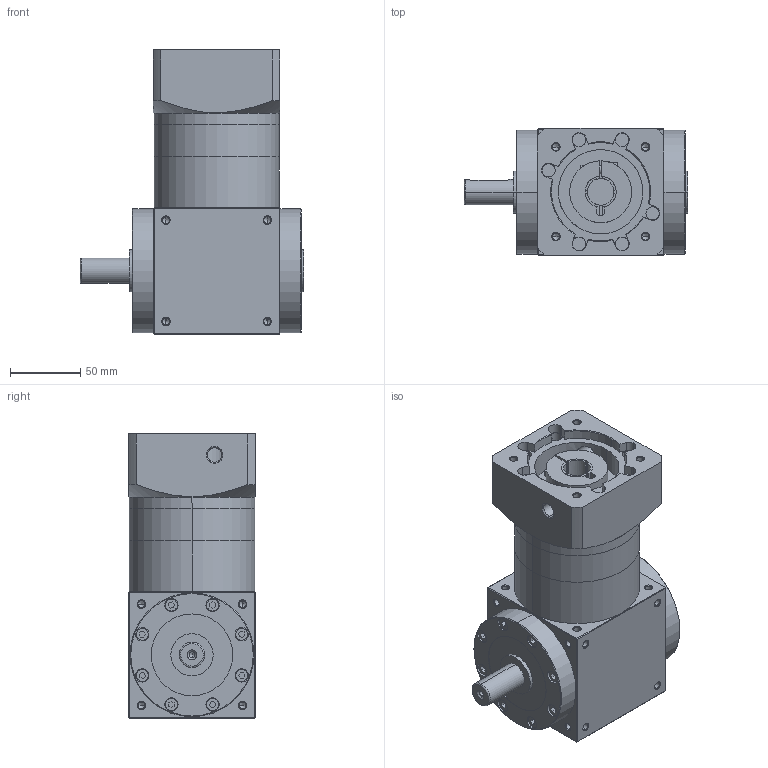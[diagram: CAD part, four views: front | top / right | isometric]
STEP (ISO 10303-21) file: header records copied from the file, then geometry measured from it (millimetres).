
FILE_DESCRIPTION (( 'STEP AP203' ), '1' );
FILE_NAME ('AT090-FL1-L2-19-70-90M6.STEP', '2025-12-11T02:52:57', ( 'Windows User' ), ( 'P R C' ), 'SwSTEP 2.0', 'SolidWorks 2016', '' );
FILE_SCHEMA (( 'CONFIG_CONTROL_DESIGN' ));
Length unit declared in the file: millimetre
Products named in the file (6): AT90单级齿圈; 输入胀套-22; AT90输入法兰-B-70-M6-90; AT090-FL1-L2-19-70-90M6; AT90-转角箱体-左单轴-输出; AT90蛌倰怀堤楊擘
Assembly tree (5 placements, depth 2):
  AT090-FL1-L2-19-70-90M6
    AT90-转角箱体-左单轴-输出
    AT90蛌倰怀堤楊擘
    AT90单级齿圈
    输入胀套-22
    AT90输入法兰-B-70-M6-90
Bounding box: 159 x 90 x 202 mm (x, y, z)
Volume: 1211918.6 mm3; surface area: 200821.9 mm2
Topology: 5 solids, 17 shells, 1419 faces, 3595 edges, 2262 vertices
Faces by surface type: plane 697, cylinder 315, cone 236, bspline 171
Entity records: 50158 total; most frequent: CARTESIAN_POINT 16994, ORIENTED_EDGE 7002, DIRECTION 6154, EDGE_CURVE 3501, VECTOR 2262, LINE 2262, VERTEX_POINT 2262, AXIS2_PLACEMENT_3D 1946
